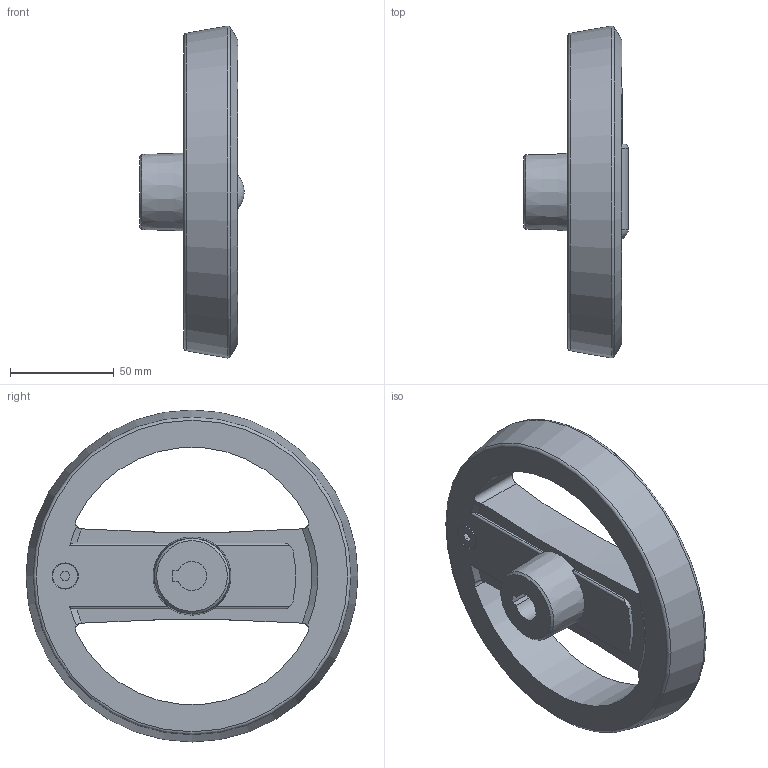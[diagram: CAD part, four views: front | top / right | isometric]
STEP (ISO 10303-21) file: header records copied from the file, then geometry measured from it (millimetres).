
FILE_DESCRIPTION( ( 'STEP AP203' ), '1' );
FILE_NAME( 'C:/Temp/Ganter_Step_05_03_2020/data/1_3/gn_924_3/gn_924_3_k/Handwheel with retractable handle GN 924.3-160-K14-R-SW (unactivated).stp', '2020-03-05T10:41:13', ( 'License CC BY-ND 4.0' ), ( 'CADENAS' ), ' ', 'PARTsolutions', ' ' );
FILE_SCHEMA( ( 'CONFIG_CONTROL_DESIGN' ) );
Length unit declared in the file: millimetre
Products named in the file (3): Handwheel with retractable handle GN 924.3-160-K14-R-SW (unactivated); _Umleggriff-Handrad GN 924.3-160-K14-R-SW-1; _Umleggriff-Handrad GN 924.3-160-K14-R-SW-2
Assembly tree (2 placements, depth 2):
  Handwheel with retractable handle GN 924.3-160-K14-R-SW (unactivated)
    _Umleggriff-Handrad GN 924.3-160-K14-R-SW-1
    _Umleggriff-Handrad GN 924.3-160-K14-R-SW-2
Bounding box: 50.2 x 159.68 x 159.68 mm (x, y, z)
Volume: 293299.3 mm3; surface area: 65554.2 mm2
Topology: 2 solids, 2 shells, 111 faces, 289 edges, 186 vertices
Faces by surface type: plane 49, cylinder 41, cone 12, torus 7, sphere 2
Full cylindrical faces by diameter (mm): 4 x4, 5 x1, 10 x1, 12 x1, 18.5 x1, 24 x1, 25 x1, 26.6 x1
Entity records: 3664 total; most frequent: CARTESIAN_POINT 970, DIRECTION 538, ORIENTED_EDGE 508, EDGE_CURVE 254, AXIS2_PLACEMENT_3D 215, VERTEX_POINT 181, EDGE_LOOP 150, FACE_OUTER_BOUND 129
